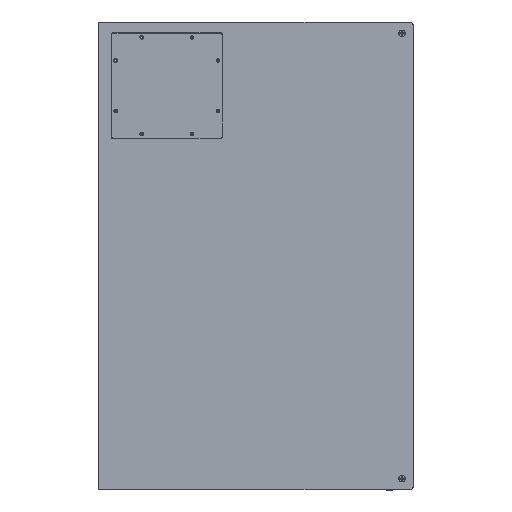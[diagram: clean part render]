
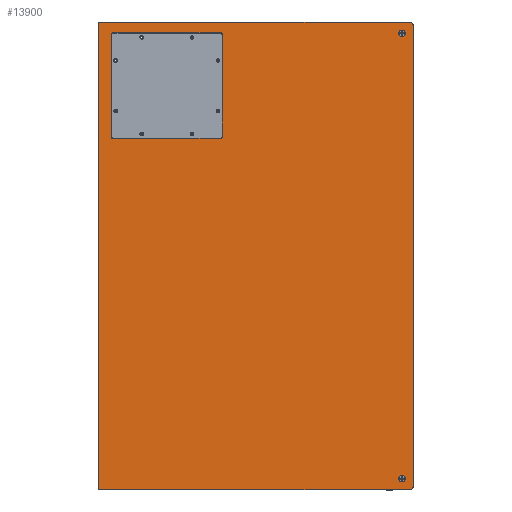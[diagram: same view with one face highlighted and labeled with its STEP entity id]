
A CAD part, front view. The second image highlights one B-rep face of the part: STEP entity #13900.
In plain terms, the highlighted planar face has unit normal (0, -1, 0).
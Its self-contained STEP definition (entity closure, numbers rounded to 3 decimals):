
#169 = CARTESIAN_POINT ( 'NONE',  ( -6.417, -21.475, 11.505 ) ) ;
#198 = DIRECTION ( 'NONE',  ( 0., 0., -1. ) ) ;
#205 = EDGE_CURVE ( 'NONE', #13286, #13306, #3786, .T. ) ;
#232 = CARTESIAN_POINT ( 'NONE',  ( -348.192, -21.475, 539.78 ) ) ;
#336 = EDGE_CURVE ( 'NONE', #6923, #5561, #11094, .T. ) ;
#500 = CARTESIAN_POINT ( 'NONE',  ( -89.542, -21.475, 542.955 ) ) ;
#681 = CIRCLE ( 'NONE', #6947, 10. ) ;
#702 = VECTOR ( 'NONE', #2525, 1000. ) ;
#819 = EDGE_CURVE ( 'NONE', #13286, #5561, #10774, .T. ) ;
#1065 = CARTESIAN_POINT ( 'NONE',  ( -381.417, -21.475, 569.005 ) ) ;
#1195 = EDGE_CURVE ( 'NONE', #5378, #13306, #11429, .T. ) ;
#1197 = VECTOR ( 'NONE', #5832, 1000. ) ;
#1281 = CARTESIAN_POINT ( 'NONE',  ( 368.583, -21.475, -535.995 ) ) ;
#1300 = VERTEX_POINT ( 'NONE', #8809 ) ;
#1331 = CARTESIAN_POINT ( 'NONE',  ( -381.417, -21.475, 569.005 ) ) ;
#1360 = CARTESIAN_POINT ( 'NONE',  ( 358.583, -21.475, -535.995 ) ) ;
#1365 = CARTESIAN_POINT ( 'NONE',  ( -86.367, -21.475, 542.955 ) ) ;
#1489 = CARTESIAN_POINT ( 'NONE',  ( -381.417, -21.475, 569.005 ) ) ;
#1591 = AXIS2_PLACEMENT_3D ( 'NONE', #169, #13361, #4603 ) ;
#1611 = CARTESIAN_POINT ( 'NONE',  ( 358.583, -21.475, 569.005 ) ) ;
#1685 = AXIS2_PLACEMENT_3D ( 'NONE', #1360, #9866, #198 ) ;
#2051 = LINE ( 'NONE', #6490, #2849 ) ;
#2161 = AXIS2_PLACEMENT_3D ( 'NONE', #232, #3720, #7930 ) ;
#2163 = CIRCLE ( 'NONE', #1685, 10. ) ;
#2172 = DIRECTION ( 'NONE',  ( 0., 0., -1. ) ) ;
#2246 = CARTESIAN_POINT ( 'NONE',  ( 341.43, -21.475, -526.907 ) ) ;
#2253 = CARTESIAN_POINT ( 'NONE',  ( -351.367, -21.475, 291.555 ) ) ;
#2284 = ORIENTED_EDGE ( 'NONE', *, *, #8933, .F. ) ;
#2339 = CARTESIAN_POINT ( 'NONE',  ( -86.367, -21.475, 291.555 ) ) ;
#2525 = DIRECTION ( 'NONE',  ( -1., 0., 0. ) ) ;
#2552 = ORIENTED_EDGE ( 'NONE', *, *, #8765, .T. ) ;
#2592 = DIRECTION ( 'NONE',  ( -1., 0., 0. ) ) ;
#2723 = EDGE_CURVE ( 'NONE', #1300, #10385, #11420, .T. ) ;
#2792 = AXIS2_PLACEMENT_3D ( 'NONE', #5333, #14156, #14232 ) ;
#2849 = VECTOR ( 'NONE', #10903, 1000. ) ;
#3088 = DIRECTION ( 'NONE',  ( 0., 0., -1. ) ) ;
#3283 = CARTESIAN_POINT ( 'NONE',  ( -89.542, -21.475, 291.555 ) ) ;
#3328 = EDGE_LOOP ( 'NONE', ( #6403 ) ) ;
#3341 = ORIENTED_EDGE ( 'NONE', *, *, #1195, .T. ) ;
#3360 = EDGE_CURVE ( 'NONE', #9623, #10604, #2163, .T. ) ;
#3583 = FACE_BOUND ( 'NONE', #3328, .T. ) ;
#3612 = CARTESIAN_POINT ( 'NONE',  ( -381.417, -21.475, -545.995 ) ) ;
#3720 = DIRECTION ( 'NONE',  ( 0., 1., 0. ) ) ;
#3786 = LINE ( 'NONE', #2339, #10466 ) ;
#3960 = EDGE_CURVE ( 'NONE', #9728, #14132, #10007, .T. ) ;
#3986 = AXIS2_PLACEMENT_3D ( 'NONE', #14190, #4278, #2172 ) ;
#4104 = CARTESIAN_POINT ( 'NONE',  ( -89.542, -21.475, 294.73 ) ) ;
#4177 = DIRECTION ( 'NONE',  ( 0., 1., 0. ) ) ;
#4226 = CARTESIAN_POINT ( 'NONE',  ( -86.367, -21.475, 539.78 ) ) ;
#4278 = DIRECTION ( 'NONE',  ( 0., 1., 0. ) ) ;
#4304 = CARTESIAN_POINT ( 'NONE',  ( -348.192, -21.475, 291.555 ) ) ;
#4506 = VERTEX_POINT ( 'NONE', #2246 ) ;
#4566 = LINE ( 'NONE', #3612, #8310 ) ;
#4603 = DIRECTION ( 'NONE',  ( 0., 0., -1. ) ) ;
#4785 = LINE ( 'NONE', #1365, #702 ) ;
#4809 = LINE ( 'NONE', #8137, #1197 ) ;
#4846 = CARTESIAN_POINT ( 'NONE',  ( -86.367, -21.475, 294.73 ) ) ;
#5181 = AXIS2_PLACEMENT_3D ( 'NONE', #4104, #4177, #3088 ) ;
#5249 = EDGE_CURVE ( 'NONE', #9728, #13941, #4785, .T. ) ;
#5333 = CARTESIAN_POINT ( 'NONE',  ( 341.43, -21.475, -518.842 ) ) ;
#5366 = DIRECTION ( 'NONE',  ( 0., 0., -1. ) ) ;
#5378 = VERTEX_POINT ( 'NONE', #4846 ) ;
#5384 = ORIENTED_EDGE ( 'NONE', *, *, #11720, .F. ) ;
#5417 = EDGE_LOOP ( 'NONE', ( #8074, #3341, #10723, #6175, #5817, #5456, #9421, #13786 ) ) ;
#5456 = ORIENTED_EDGE ( 'NONE', *, *, #8061, .T. ) ;
#5506 = DIRECTION ( 'NONE',  ( 0., 0., -1. ) ) ;
#5561 = VERTEX_POINT ( 'NONE', #12375 ) ;
#5698 = FACE_BOUND ( 'NONE', #5417, .T. ) ;
#5767 = AXIS2_PLACEMENT_3D ( 'NONE', #8637, #10893, #14216 ) ;
#5817 = ORIENTED_EDGE ( 'NONE', *, *, #336, .F. ) ;
#5832 = DIRECTION ( 'NONE',  ( 0., 0., -1. ) ) ;
#6089 = CIRCLE ( 'NONE', #2161, 3.175 ) ;
#6126 = VERTEX_POINT ( 'NONE', #1611 ) ;
#6175 = ORIENTED_EDGE ( 'NONE', *, *, #819, .T. ) ;
#6403 = ORIENTED_EDGE ( 'NONE', *, *, #10834, .F. ) ;
#6490 = CARTESIAN_POINT ( 'NONE',  ( -86.367, -21.475, 291.555 ) ) ;
#6678 = VECTOR ( 'NONE', #8767, 1000. ) ;
#6923 = VERTEX_POINT ( 'NONE', #8364 ) ;
#6947 = AXIS2_PLACEMENT_3D ( 'NONE', #8754, #8907, #5366 ) ;
#7503 = VERTEX_POINT ( 'NONE', #14154 ) ;
#7600 = CARTESIAN_POINT ( 'NONE',  ( -348.192, -21.475, 294.73 ) ) ;
#7675 = DIRECTION ( 'NONE',  ( 0., 1., 0. ) ) ;
#7701 = CARTESIAN_POINT ( 'NONE',  ( 368.583, -21.475, 559.005 ) ) ;
#7930 = DIRECTION ( 'NONE',  ( 0., 0., -1. ) ) ;
#7972 = EDGE_CURVE ( 'NONE', #5378, #14132, #2051, .T. ) ;
#7996 = DIRECTION ( 'NONE',  ( 1., 0., 0. ) ) ;
#8009 = FACE_OUTER_BOUND ( 'NONE', #14163, .T. ) ;
#8061 = EDGE_CURVE ( 'NONE', #6923, #13941, #6089, .T. ) ;
#8074 = ORIENTED_EDGE ( 'NONE', *, *, #7972, .F. ) ;
#8137 = CARTESIAN_POINT ( 'NONE',  ( 368.583, -21.475, 569.005 ) ) ;
#8310 = VECTOR ( 'NONE', #2592, 1000. ) ;
#8364 = CARTESIAN_POINT ( 'NONE',  ( -351.367, -21.475, 539.78 ) ) ;
#8637 = CARTESIAN_POINT ( 'NONE',  ( 341.43, -21.475, 541.852 ) ) ;
#8754 = CARTESIAN_POINT ( 'NONE',  ( 358.583, -21.475, 559.005 ) ) ;
#8765 = EDGE_CURVE ( 'NONE', #12087, #6126, #681, .T. ) ;
#8767 = DIRECTION ( 'NONE',  ( 0., 0., -1. ) ) ;
#8809 = CARTESIAN_POINT ( 'NONE',  ( -381.417, -21.475, -545.995 ) ) ;
#8907 = DIRECTION ( 'NONE',  ( 0., -1., 0. ) ) ;
#8933 = EDGE_CURVE ( 'NONE', #9623, #1300, #4566, .T. ) ;
#8947 = FACE_BOUND ( 'NONE', #11488, .T. ) ;
#9235 = VECTOR ( 'NONE', #12697, 1000. ) ;
#9287 = ORIENTED_EDGE ( 'NONE', *, *, #3360, .T. ) ;
#9421 = ORIENTED_EDGE ( 'NONE', *, *, #5249, .F. ) ;
#9623 = VERTEX_POINT ( 'NONE', #10084 ) ;
#9728 = VERTEX_POINT ( 'NONE', #500 ) ;
#9805 = ORIENTED_EDGE ( 'NONE', *, *, #12879, .F. ) ;
#9866 = DIRECTION ( 'NONE',  ( 0., -1., 0. ) ) ;
#10007 = CIRCLE ( 'NONE', #3986, 3.175 ) ;
#10084 = CARTESIAN_POINT ( 'NONE',  ( 358.583, -21.475, -545.995 ) ) ;
#10106 = PLANE ( 'NONE',  #1591 ) ;
#10385 = VERTEX_POINT ( 'NONE', #1065 ) ;
#10466 = VECTOR ( 'NONE', #7996, 1000. ) ;
#10508 = VECTOR ( 'NONE', #11554, 1000. ) ;
#10604 = VERTEX_POINT ( 'NONE', #1281 ) ;
#10723 = ORIENTED_EDGE ( 'NONE', *, *, #205, .F. ) ;
#10774 = CIRCLE ( 'NONE', #12403, 3.175 ) ;
#10834 = EDGE_CURVE ( 'NONE', #4506, #4506, #10897, .T. ) ;
#10893 = DIRECTION ( 'NONE',  ( 0., -1., 0. ) ) ;
#10897 = CIRCLE ( 'NONE', #2792, 8.065 ) ;
#10903 = DIRECTION ( 'NONE',  ( 0., 0., 1. ) ) ;
#11094 = LINE ( 'NONE', #2253, #6678 ) ;
#11095 = ORIENTED_EDGE ( 'NONE', *, *, #2723, .F. ) ;
#11199 = LINE ( 'NONE', #1331, #9235 ) ;
#11420 = LINE ( 'NONE', #1489, #10508 ) ;
#11429 = CIRCLE ( 'NONE', #5181, 3.175 ) ;
#11488 = EDGE_LOOP ( 'NONE', ( #14117 ) ) ;
#11554 = DIRECTION ( 'NONE',  ( 0., 0., 1. ) ) ;
#11720 = EDGE_CURVE ( 'NONE', #12087, #10604, #4809, .T. ) ;
#12008 = CIRCLE ( 'NONE', #5767, 8.065 ) ;
#12011 = CARTESIAN_POINT ( 'NONE',  ( -348.192, -21.475, 542.955 ) ) ;
#12087 = VERTEX_POINT ( 'NONE', #7701 ) ;
#12375 = CARTESIAN_POINT ( 'NONE',  ( -351.367, -21.475, 294.73 ) ) ;
#12403 = AXIS2_PLACEMENT_3D ( 'NONE', #7600, #7675, #5506 ) ;
#12697 = DIRECTION ( 'NONE',  ( 1., 0., 0. ) ) ;
#12879 = EDGE_CURVE ( 'NONE', #10385, #6126, #11199, .T. ) ;
#13286 = VERTEX_POINT ( 'NONE', #4304 ) ;
#13306 = VERTEX_POINT ( 'NONE', #3283 ) ;
#13361 = DIRECTION ( 'NONE',  ( 0., -1., 0. ) ) ;
#13786 = ORIENTED_EDGE ( 'NONE', *, *, #3960, .T. ) ;
#13900 = ADVANCED_FACE ( 'NONE', ( #5698, #8947, #3583, #8009 ), #10106, .T. ) ;
#13941 = VERTEX_POINT ( 'NONE', #12011 ) ;
#14097 = EDGE_CURVE ( 'NONE', #7503, #7503, #12008, .T. ) ;
#14117 = ORIENTED_EDGE ( 'NONE', *, *, #14097, .F. ) ;
#14132 = VERTEX_POINT ( 'NONE', #4226 ) ;
#14154 = CARTESIAN_POINT ( 'NONE',  ( 341.43, -21.475, 533.787 ) ) ;
#14156 = DIRECTION ( 'NONE',  ( 0., -1., 0. ) ) ;
#14163 = EDGE_LOOP ( 'NONE', ( #5384, #2552, #9805, #11095, #2284, #9287 ) ) ;
#14190 = CARTESIAN_POINT ( 'NONE',  ( -89.542, -21.475, 539.78 ) ) ;
#14216 = DIRECTION ( 'NONE',  ( 0., 0., -1. ) ) ;
#14232 = DIRECTION ( 'NONE',  ( 0., 0., -1. ) ) ;
